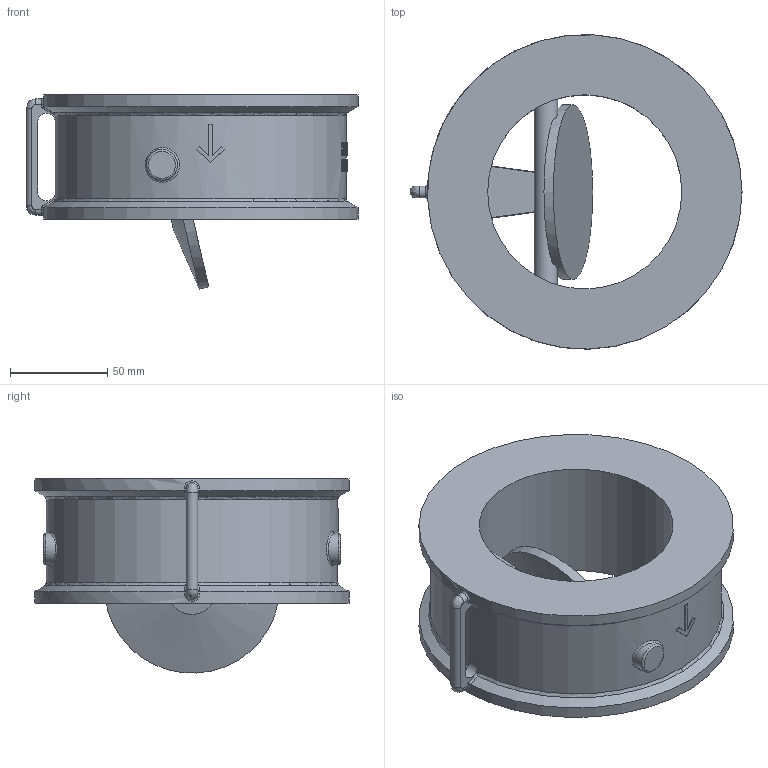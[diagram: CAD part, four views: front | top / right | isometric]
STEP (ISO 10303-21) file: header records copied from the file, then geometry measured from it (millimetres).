
FILE_DESCRIPTION( ( 'Unknown' ), '1' );
FILE_NAME( 'C:/Documents and Settings/Klaus/My Documents/Rootsi BPS 3D, Klaus/BPS 6530 tilting disc check valve/STEP/BPS6530100 tilting disc check valve DN100.stp', 'Unknown', ( 'Unknown' ), ( 'Unknown' ), 'PSStep 10.1', 'Unknown', ' ' );
FILE_SCHEMA( ( 'AUTOMOTIVE_DESIGN { 1 0 10303 214 1 1 1 1 }' ) );
Length unit declared in the file: millimetre
Products named in the file (1): 1
Bounding box: 171 x 161.95 x 99.94 mm (x, y, z)
Volume: 740811.4 mm3; surface area: 98424.5 mm2
Topology: 1 solids, 1 shells, 219 faces, 543 edges, 359 vertices
Faces by surface type: bspline 84, plane 75, cylinder 52, cone 4, torus 4
Full cylindrical faces by diameter (mm): 12 x1, 16 x2, 90 x1, 100 x1, 162 x2
Entity records: 20085 total; most frequent: CARTESIAN_POINT 14307, ORIENTED_EDGE 1022, EDGE_CURVE 511, B_SPLINE_CURVE_WITH_KNOTS 427, DIRECTION 398, VERTEX_POINT 350, EDGE_LOOP 283, FACE_OUTER_BOUND 240
